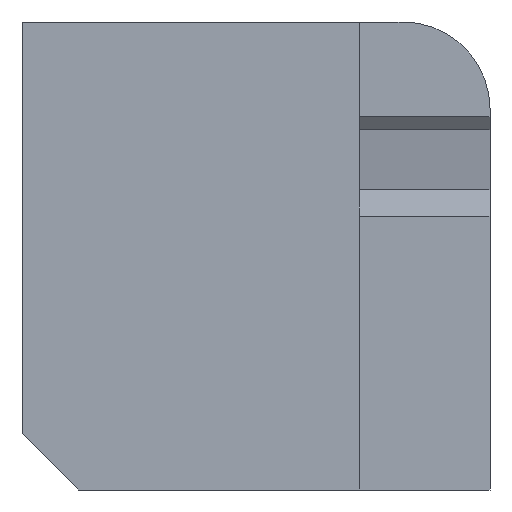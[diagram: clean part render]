
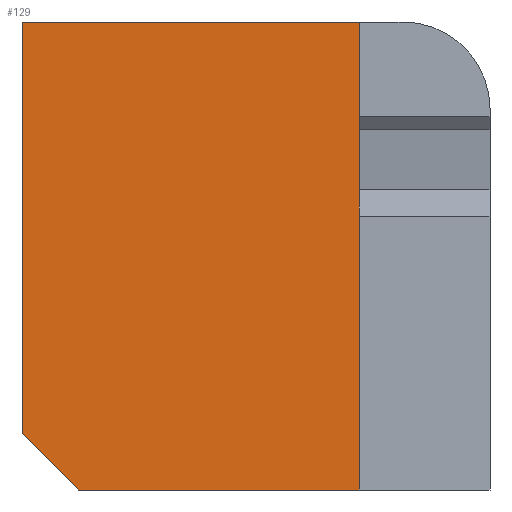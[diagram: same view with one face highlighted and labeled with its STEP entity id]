
A CAD part, left-side view. The second image highlights one B-rep face of the part: STEP entity #129.
In plain terms, the highlighted planar face has unit normal (-1, 0, 0).
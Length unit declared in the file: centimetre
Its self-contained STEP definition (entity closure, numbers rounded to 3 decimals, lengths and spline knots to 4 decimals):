
#32 = EDGE_CURVE ( 'NONE', #898, #395, #224, .T. ) ;
#99 = VERTEX_POINT ( 'NONE', #826 ) ;
#105 = DIRECTION ( 'NONE',  ( 0., 0., -1. ) ) ;
#129 = ADVANCED_FACE ( 'NONE', ( #465 ), #612, .F. ) ;
#136 = CARTESIAN_POINT ( 'NONE',  ( 0., 1000., 120.5568 ) ) ;
#150 = EDGE_CURVE ( 'NONE', #502, #99, #313, .T. ) ;
#188 = VERTEX_POINT ( 'NONE', #136 ) ;
#202 = VECTOR ( 'NONE', #810, 100. ) ;
#219 = EDGE_CURVE ( 'NONE', #99, #395, #425, .T. ) ;
#224 = LINE ( 'NONE', #672, #300 ) ;
#300 = VECTOR ( 'NONE', #655, 100. ) ;
#313 = LINE ( 'NONE', #475, #741 ) ;
#359 = EDGE_LOOP ( 'NONE', ( #491, #849, #856, #660, #818 ) ) ;
#363 = VECTOR ( 'NONE', #493, 100. ) ;
#381 = DIRECTION ( 'NONE',  ( 0., -0.707, -0.707 ) ) ;
#393 = DIRECTION ( 'NONE',  ( 1., 0., 0. ) ) ;
#395 = VERTEX_POINT ( 'NONE', #560 ) ;
#411 = AXIS2_PLACEMENT_3D ( 'NONE', #759, #393, #105 ) ;
#425 = LINE ( 'NONE', #568, #363 ) ;
#446 = LINE ( 'NONE', #738, #537 ) ;
#465 = FACE_OUTER_BOUND ( 'NONE', #359, .T. ) ;
#475 = CARTESIAN_POINT ( 'NONE',  ( 0., 1000., 0. ) ) ;
#491 = ORIENTED_EDGE ( 'NONE', *, *, #150, .T. ) ;
#493 = DIRECTION ( 'NONE',  ( 0., 0., 1. ) ) ;
#502 = VERTEX_POINT ( 'NONE', #588 ) ;
#507 = LINE ( 'NONE', #520, #202 ) ;
#509 = EDGE_CURVE ( 'NONE', #898, #188, #507, .T. ) ;
#516 = EDGE_CURVE ( 'NONE', #188, #502, #446, .T. ) ;
#520 = CARTESIAN_POINT ( 'NONE',  ( 0., 1000., 1000. ) ) ;
#537 = VECTOR ( 'NONE', #381, 100. ) ;
#560 = CARTESIAN_POINT ( 'NONE',  ( 0., 279.5709, 1000. ) ) ;
#568 = CARTESIAN_POINT ( 'NONE',  ( 0., 279.5709, 0. ) ) ;
#588 = CARTESIAN_POINT ( 'NONE',  ( 0., 879.4432, 0. ) ) ;
#612 = PLANE ( 'NONE',  #411 ) ;
#655 = DIRECTION ( 'NONE',  ( 0., -1., 0. ) ) ;
#660 = ORIENTED_EDGE ( 'NONE', *, *, #509, .T. ) ;
#672 = CARTESIAN_POINT ( 'NONE',  ( 0., 1000., 1000. ) ) ;
#738 = CARTESIAN_POINT ( 'NONE',  ( 0., 1000., 120.5568 ) ) ;
#741 = VECTOR ( 'NONE', #768, 100. ) ;
#759 = CARTESIAN_POINT ( 'NONE',  ( 0., 1000., 1000. ) ) ;
#768 = DIRECTION ( 'NONE',  ( 0., -1., 0. ) ) ;
#809 = CARTESIAN_POINT ( 'NONE',  ( 0., 1000., 1000. ) ) ;
#810 = DIRECTION ( 'NONE',  ( 0., 0., -1. ) ) ;
#818 = ORIENTED_EDGE ( 'NONE', *, *, #516, .T. ) ;
#826 = CARTESIAN_POINT ( 'NONE',  ( 0., 279.5709, 0. ) ) ;
#849 = ORIENTED_EDGE ( 'NONE', *, *, #219, .T. ) ;
#856 = ORIENTED_EDGE ( 'NONE', *, *, #32, .F. ) ;
#898 = VERTEX_POINT ( 'NONE', #809 ) ;
